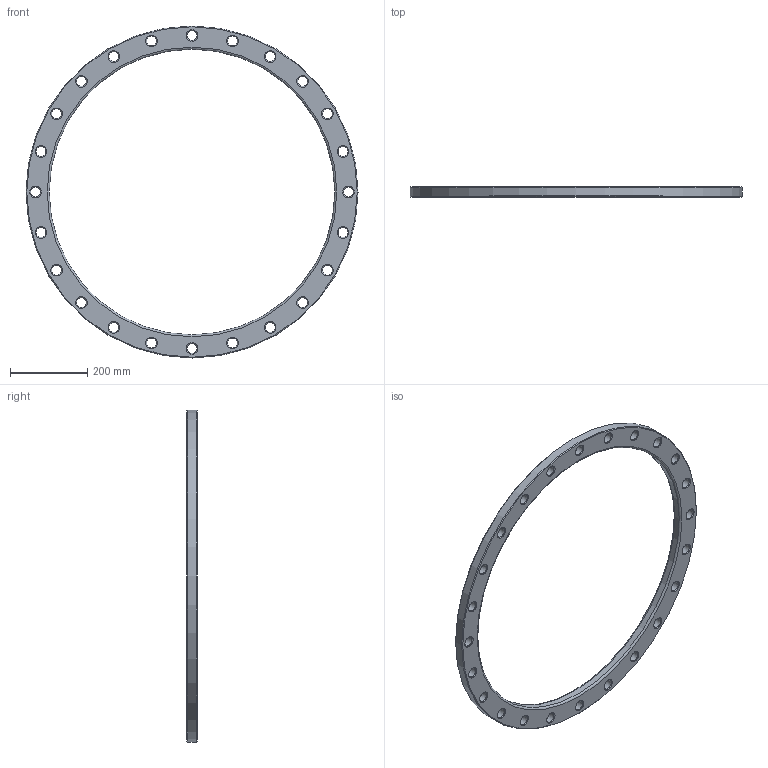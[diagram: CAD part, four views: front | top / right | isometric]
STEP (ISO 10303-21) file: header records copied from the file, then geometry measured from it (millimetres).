
FILE_DESCRIPTION(/* description */ ('Unknown'),/* implementation_level */ '2;1');
FILE_NAME(/* name */ 'FZ710A',/* time_stamp */ '2021-03-15T09:23:11+01:00',/* author */ ('Unknown'),/* organization */ ('Unknown'),/* preprocessor_version */ 'ST-DEVELOPER v16.7',/* originating_system */ 'Solid Edge',/* authorisation */ 'Unknown');
FILE_SCHEMA (('AUTOMOTIVE_DESIGN {1 0 10303 214 3 1 1}'));
Length unit declared in the file: millimetre
Products named in the file (1): FZ710A
Bounding box: 860 x 26 x 860 mm (x, y, z)
Volume: 3545353.6 mm3; surface area: 437127.4 mm2
Topology: 1 solids, 1 shells, 80 faces, 254 edges, 176 vertices
Faces by surface type: cone 50, cylinder 26, plane 2, torus 2
Full cylindrical faces by diameter (mm): 26 x24, 740 x1, 860 x1
Entity records: 1974 total; most frequent: DIRECTION 370, CARTESIAN_POINT 289, ORIENTED_EDGE 208, EDGE_LOOP 208, FACE_BOUND 208, AXIS2_PLACEMENT_3D 185, EDGE_CURVE 104, VERTEX_POINT 104
